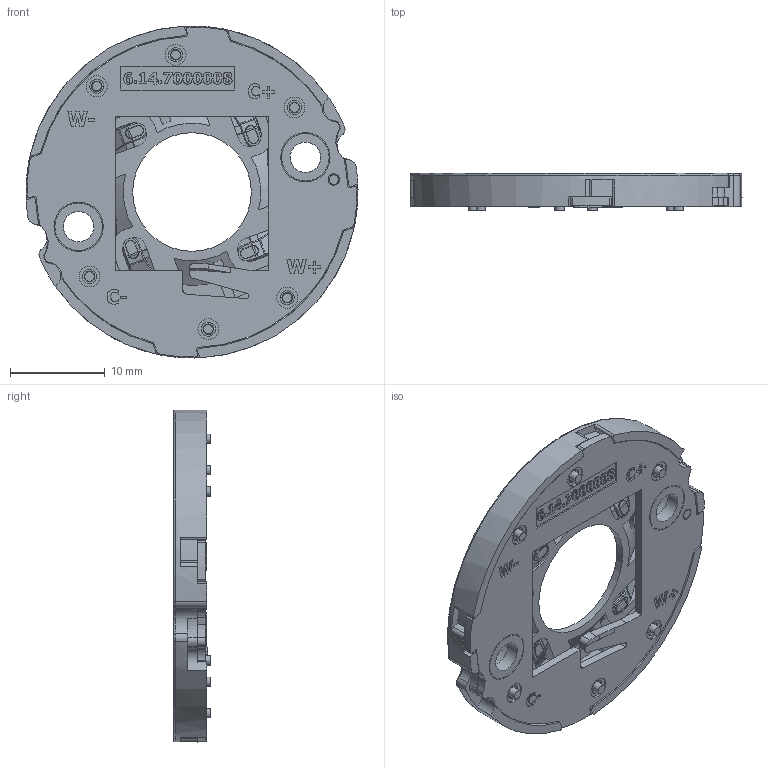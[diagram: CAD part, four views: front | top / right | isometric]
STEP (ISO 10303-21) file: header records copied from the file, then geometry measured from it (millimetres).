
FILE_DESCRIPTION(/* description */ (''),/* implementation_level */ '2;1');
FILE_NAME(/* name */ 'C:\Users\CS\Desktop\BXHD-1616-125规格图.stp',/* time_stamp */ '2024-10-15T10:23:28+08:00',/* author */ ('CS'),/* organization */ (''),/* preprocessor_version */ 'ST-DEVELOPER v18',/* originating_system */ 'Autodesk Inventor 2020',/* authorisation */ '');
FILE_SCHEMA (('AUTOMOTIVE_DESIGN { 1 0 10303 214 3 1 1 }'));
Length unit declared in the file: millimetre
Products named in the file (4): GL-P1616H规格图; P1616H-1（20201020）; SF4-1616-3 12-31; 1830-2G（规格图用）
Assembly tree (6 placements, depth 2):
  GL-P1616H规格图
    P1616H-1（20201020）
    SF4-1616-3 12-31
    1830-2G（规格图用）  x4
Bounding box: 35 x 3.9 x 35 mm (x, y, z)
Volume: 2040.8 mm3; surface area: 4134.8 mm2
Topology: 6 solids, 6 shells, 1501 faces, 3951 edges, 2572 vertices
Faces by surface type: plane 784, bspline 406, cylinder 246, cone 33, torus 32
Full cylindrical faces by diameter (mm): 1 x7, 1.1 x6, 1.2 x1, 1.5 x6, 2.1 x4, 2.2 x6, 3.2 x2, 5 x2, 5.2 x2, 6 x2, 12.5 x1
Entity records: 41931 total; most frequent: CARTESIAN_POINT 12156, ORIENTED_EDGE 6786, DIRECTION 4971, EDGE_CURVE 3393, VERTEX_POINT 2251, LINE 2147, VECTOR 2147, AXIS2_PLACEMENT_3D 1412
